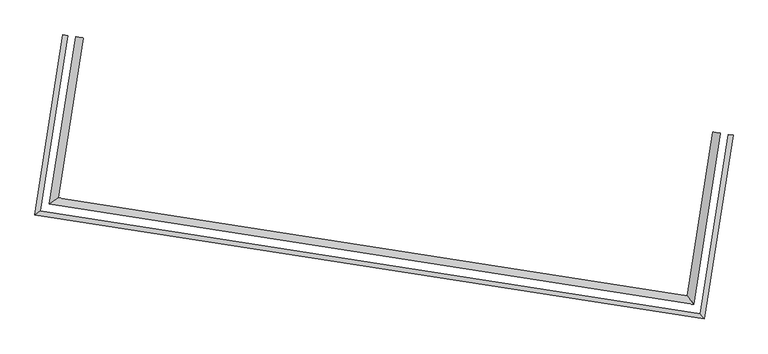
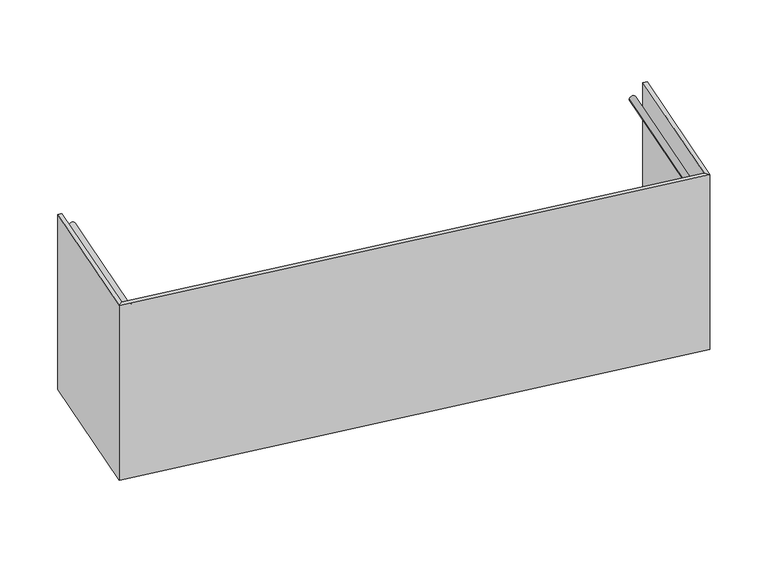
"""IFC4 building model written with IfcOpenShell, lengths in millimetres: railing geometry, Panel de vidrio - balcón."""

from ifc_helpers import new_model, si_unit, frame, origin, place, context, project, spatial, circle_curve, ellipse_curve, faceted_brep, source, transform, mapped, element, save
from ifc_brep_helpers import plane_surface, cylinder_surface, advanced_brep


def railing_6ff22f45(model_context):
    return source(origin(), model_context, "Body", "SolidModel", [
        faceted_brep([(-37353.4144704, -61424.1774371, 10545.385397), (-37353.4144704, -61424.1774371, 9345.385397), (-37378.1162031, -61420.3271901, 9345.385397), (-37378.1162031, -61420.3271901, 10545.385397), (-37524.7191931, -62360.8766891, 10545.385397), (-37503.8677074, -62389.4286687, 10545.385397), (-37524.7191931, -62360.8766891, 9345.385397), (-37503.8677074, -62389.4286687, 9345.385397), (-40988.3758738, -61820.998231, 10545.385397), (-41016.9278535, -61841.8497168, 10545.385397), (-40988.3758738, -61820.998231, 9345.385397), (-41016.9278535, -61841.8497168, 9345.385397), (-40869.554814, -60896.3598705, 10545.385397), (-40844.8530813, -60900.2101175, 10545.385397), (-40844.8530813, -60900.2101175, 9345.385397), (-40869.554814, -60896.3598705, 9345.385397)], [[[0, 1, 2, 3]], [[0, 3, 4, 5]], [[3, 2, 6, 4]], [[2, 1, 7, 6]], [[1, 0, 5, 7]], [[5, 4, 8, 9]], [[4, 6, 10, 8]], [[6, 7, 11, 10]], [[7, 5, 9, 11]], [[12, 13, 14, 15]], [[9, 8, 13, 12]], [[8, 10, 14, 13]], [[10, 11, 15, 14]], [[11, 9, 12, 15]]]),
        advanced_brep(
        [(-37459.0454073, -61407.7127946, 10450.0), (-37419.522635, -61413.8731898, 10450.0), (-37559.6716247, -62313.0162571, 10450.0), (-37593.0340019, -62267.3330898, 10450.0), (-40940.5154416, -61786.0457992, 10450.0), (-40894.8322741, -61752.683422, 10450.0), (-40763.9238771, -60912.8245129, 10450.0), (-40803.4466494, -60906.6641178, 10450.0)],
        [
            (0, 1, circle_curve(frame((-37439.2840211, -61410.7929922, 10450.0), z_axis=(0.15400987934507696, 0.9880693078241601, 0.0), x_axis=(0.9880693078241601, -0.15400987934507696, 0.0)), 20.0)),
            (1, 0, circle_curve(frame((-37439.2840211, -61410.7929922, 10450.0), z_axis=(0.15400987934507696, 0.9880693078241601, 0.0), x_axis=(0.9880693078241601, -0.15400987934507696, 0.0)), 20.0)),
            (1, 2),
            (2, 3, ellipse_curve(frame((-37576.3528133, -62290.1746734, 10450.0), z_axis=(0.8075719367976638, 0.5897690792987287, 0.0), x_axis=(-0.5897690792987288, 0.8075719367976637, 0.0)), 28.2842712, 20.0)),
            (3, 0),
            (3, 2, ellipse_curve(frame((-37576.3528133, -62290.1746734, 10450.0), z_axis=(0.8075719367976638, 0.5897690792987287, 0.0), x_axis=(-0.5897690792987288, 0.8075719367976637, 0.0)), 28.2842712, 20.0)),
            (2, 4),
            (4, 5, ellipse_curve(frame((-40917.6738579, -61769.3646106, 10450.0), z_axis=(0.5897690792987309, -0.8075719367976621, 0.0), x_axis=(0.8075719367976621, 0.5897690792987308, 0.0)), 28.2842713, 20.0)),
            (5, 3),
            (5, 4, ellipse_curve(frame((-40917.6738579, -61769.3646106, 10450.0), z_axis=(0.5897690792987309, -0.8075719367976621, 0.0), x_axis=(0.8075719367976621, 0.5897690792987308, 0.0)), 28.2842713, 20.0)),
            (6, 7, circle_curve(frame((-40783.6852633, -60909.7443153, 10450.0), z_axis=(0.15400987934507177, 0.9880693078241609, 0.0), x_axis=(-0.9880693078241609, 0.15400987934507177, 0.0)), 20.0)),
            (7, 6, circle_curve(frame((-40783.6852633, -60909.7443153, 10450.0), z_axis=(0.15400987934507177, 0.9880693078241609, 0.0), x_axis=(-0.9880693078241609, 0.15400987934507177, 0.0)), 20.0)),
            (4, 7),
            (6, 5),
        ],
        [
            plane_surface(frame((-37439.2840211, -61410.7929922, 10450.0), z_axis=(0.15400987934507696, 0.9880693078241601, 0.0), x_axis=(0.9880693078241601, -0.15400987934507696, 0.0))),
            cylinder_surface(frame((-37439.2840211, -61410.7929922, 10450.0), z_axis=(0.15400987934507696, 0.9880693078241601, 0.0), x_axis=(0.9880693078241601, -0.15400987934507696, 0.0)), 20.0),
            cylinder_surface(frame((-37576.3528133, -62290.1746734, 10450.0), z_axis=(0.9880693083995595, -0.15400987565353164, 0.0), x_axis=(-0.15400987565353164, -0.9880693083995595, 0.0)), 20.0),
            plane_surface(frame((-40783.6852633, -60909.7443153, 10450.0), z_axis=(0.15400987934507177, 0.9880693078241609, 0.0), x_axis=(0.9880693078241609, -0.15400987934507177, 0.0))),
            cylinder_surface(frame((-40917.6738579, -61769.3646106, 10450.0), z_axis=(-0.15400987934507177, -0.9880693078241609, 0.0), x_axis=(-0.9880693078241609, 0.15400987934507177, 0.0)), 20.0),
        ],
        [
            (0, [[1, 2]]),
            (1, [[-2, 3, 4, 5]]),
            (1, [[-1, -5, 6, -3]]),
            (2, [[-4, 7, 8, 9]]),
            (2, [[-6, -9, 10, -7]]),
            (3, [[11, 12]]),
            (4, [[-8, 13, -11, 14]]),
            (4, [[-10, -14, -12, -13]]),
        ],
    ),
    ])


if __name__ == "__main__":
    model = new_model("IFC4")
    model_context = context("Model", 3, world=origin())
    ifc_project = project(units=[si_unit("LENGTHUNIT", "METRE", prefix="MILLI")], contexts=[model_context])
    site = spatial("IfcSite", under=ifc_project)
    building = spatial("IfcBuilding", under=site)
    placement = place(None, origin())
    railing_shape = railing_6ff22f45(model_context)
    element("IfcRailing", 1, ObjectType="Panel de vidrio - balcón", at=placement, inside=building, context=model_context, shape_type="MappedRepresentation", body=[
        mapped(railing_shape, transform((0.0, 0.0, 0.0), x_axis=(1.0, 0.0, 0.0), y_axis=(0.0, 1.0, 0.0), z_axis=(0.0, 0.0, 1.0))),
    ])
    save(model, "model.ifc")
